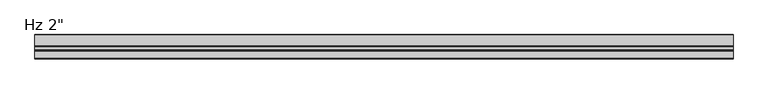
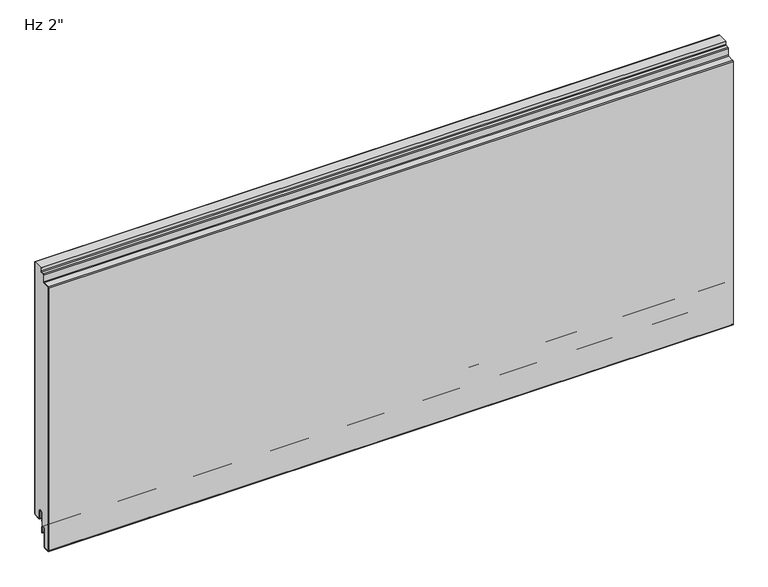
"""IFC4 building model written with IfcOpenShell, lengths in millimetres: plate geometry."""

from ifc_helpers import new_model, si_unit, point, frame, frame_2d, origin, place, context, project, spatial, polyline, circle_curve, trimmed, segment, composite_curve, outline, extrude, source, transform, mapped, element, save


def plate_a425dd43(model_context):
    return source(origin(), model_context, "Body", "SweptSolid", [
        extrude(outline(composite_curve([segment(polyline([(-22.8125, 564.5620957), (-22.8125, 571.2), (-1.0, 571.2), (-1.0, 3.175)]), True, "CONTINUOUS"), segment(trimmed(circle_curve(frame_2d((-2.38125, 3.175)), 1.38125), [point((-1.0, 3.175))], [point((-2.38125, 1.79375))], False, "CARTESIAN"), True, "CONTINUOUS"), segment(polyline([(-2.38125, 1.79375), (-15.08125, 1.79375)]), True, "CONTINUOUS"), segment(trimmed(circle_curve(frame_2d((-15.08125, 3.175)), 1.38125), [point((-15.08125, 1.79375))], [point((-16.4625, 3.175))], False, "CARTESIAN"), True, "CONTINUOUS"), segment(polyline([(-16.4625, 3.175), (-16.4625, 19.05)]), True, "CONTINUOUS"), segment(trimmed(circle_curve(frame_2d((-21.43125, 19.05)), 4.96875), [point((-16.4625, 19.05))], [point((-26.4, 19.05))], True, "CARTESIAN"), True, "CONTINUOUS"), segment(polyline([(-26.4, 19.05), (-26.4, -6.9375), (-30.95625, -6.9375)]), True, "CONTINUOUS"), segment(trimmed(circle_curve(frame_2d((-30.95625, -11.90625)), 4.96875), [point((-30.95625, -6.9375))], [point((-35.925, -11.90625))], True, "CARTESIAN"), True, "CONTINUOUS"), segment(polyline([(-35.925, -11.90625), (-35.925, -50.0895546)]), True, "CONTINUOUS"), segment(trimmed(circle_curve(frame_2d((-37.30625, -50.0895546)), 1.38125), [point((-35.925, -50.0895546))], [point((-37.233961, -51.4689117))], False, "CARTESIAN"), True, "CONTINUOUS"), segment(polyline([(-37.233961, -51.4689117), (-48.346461, -52.0512931)]), True, "CONTINUOUS"), segment(trimmed(circle_curve(frame_2d((-48.41875, -50.6719361)), 1.38125), [point((-48.346461, -52.0512931))], [point((-49.8, -50.6719361))], False, "CARTESIAN"), True, "CONTINUOUS"), segment(polyline([(-49.8, -50.6719361), (-49.8, 541.4447607)]), True, "CONTINUOUS"), segment(trimmed(circle_curve(frame_2d((-48.41875, 541.4447607)), 1.38125), [point((-49.8, 541.4447607))], [point((-48.491039, 542.8241177))], False, "CARTESIAN"), True, "CONTINUOUS"), segment(polyline([(-48.491039, 542.8241177), (-34.7895807, 543.5421807)]), True, "CONTINUOUS"), segment(trimmed(circle_curve(frame_2d((-34.925, 546.1261347)), 2.5875), [point((-34.7895807, 543.5421807))], [point((-32.3375, 546.1261347))], True, "CARTESIAN"), True, "CONTINUOUS"), segment(polyline([(-32.3375, 546.1261347), (-32.3375, 560.2967085)]), True, "CONTINUOUS"), segment(trimmed(circle_curve(frame_2d((-30.95625, 560.2967085)), 1.38125), [point((-32.3375, 560.2967085))], [point((-31.028539, 561.6760655))], False, "CARTESIAN"), True, "CONTINUOUS"), segment(polyline([(-31.028539, 561.6760655), (-25.2645807, 561.9781418)]), True, "CONTINUOUS"), segment(trimmed(circle_curve(frame_2d((-25.4, 564.5620957)), 2.5875), [point((-25.2645807, 561.9781418))], [point((-22.8125, 564.5620957))], True, "CARTESIAN"), True, "CONTINUOUS")], self_intersect=False)), frame((-730.0, 0.0, 0.0), z_axis=(1.0, 0.0, 0.0), x_axis=(0.0, 1.0, 0.0)), (0.0, 0.0, 1.0), 1460.0),
        extrude(outline(composite_curve([segment(polyline([(-25.4, 0.79375), (-26.4, 0.79375), (-26.4, 19.05)]), True, "CONTINUOUS"), segment(trimmed(circle_curve(frame_2d((-21.43125, 19.05)), 4.96875), [point((-26.4, 19.05))], [point((-16.4625, 19.05))], False, "CARTESIAN"), True, "CONTINUOUS"), segment(polyline([(-16.4625, 19.05), (-16.4625, 3.175)]), True, "CONTINUOUS"), segment(trimmed(circle_curve(frame_2d((-15.08125, 3.175)), 1.38125), [point((-16.4625, 3.175))], [point((-15.08125, 1.79375))], True, "CARTESIAN"), True, "CONTINUOUS"), segment(polyline([(-15.08125, 1.79375), (-2.38125, 1.79375)]), True, "CONTINUOUS"), segment(trimmed(circle_curve(frame_2d((-2.38125, 3.175)), 1.38125), [point((-2.38125, 1.79375))], [point((-1.0, 3.175))], True, "CARTESIAN"), True, "CONTINUOUS"), segment(polyline([(-1.0, 3.175), (-1.0, 571.2), (0.0, 571.2), (0.0, 3.175)]), True, "CONTINUOUS"), segment(trimmed(circle_curve(frame_2d((-2.38125, 3.175)), 2.38125), [point((0.0, 3.175))], [point((-2.38125, 0.79375))], False, "CARTESIAN"), True, "CONTINUOUS"), segment(polyline([(-2.38125, 0.79375), (-15.08125, 0.79375)]), True, "CONTINUOUS"), segment(trimmed(circle_curve(frame_2d((-15.08125, 3.175)), 2.38125), [point((-15.08125, 0.79375))], [point((-17.4625, 3.175))], False, "CARTESIAN"), True, "CONTINUOUS"), segment(polyline([(-17.4625, 3.175), (-17.4625, 19.05)]), True, "CONTINUOUS"), segment(trimmed(circle_curve(frame_2d((-21.43125, 19.05)), 3.96875), [point((-17.4625, 19.05))], [point((-25.4, 19.05))], True, "CARTESIAN"), True, "CONTINUOUS"), segment(polyline([(-25.4, 19.05), (-25.4, 0.79375)]), True, "CONTINUOUS")], self_intersect=False)), frame((-730.0, 0.0, 0.0), z_axis=(1.0, 0.0, 0.0), x_axis=(0.0, 1.0, 0.0)), (0.0, 0.0, 1.0), 1460.0),
        extrude(outline(composite_curve([segment(trimmed(circle_curve(frame_2d((-26.19375, -23.2314549)), 0.79375), [point((-25.4, -23.2314549))], [point((-26.9875, -23.2314549))], False, "CARTESIAN"), True, "CONTINUOUS"), segment(polyline([(-26.9875, -23.2314549), (-26.9875, -11.9205174)]), True, "CONTINUOUS"), segment(trimmed(circle_curve(frame_2d((-30.95625, -11.9205174)), 3.96875), [point((-26.9875, -11.9205174))], [point((-34.925, -11.9205174))], True, "CARTESIAN"), True, "CONTINUOUS"), segment(polyline([(-34.925, -11.9205174), (-34.925, -50.1038221)]), True, "CONTINUOUS"), segment(trimmed(circle_curve(frame_2d((-37.30625, -50.1038221)), 2.38125), [point((-34.925, -50.1038221))], [point((-37.181625, -52.4818086))], False, "CARTESIAN"), True, "CONTINUOUS"), segment(polyline([(-37.181625, -52.4818086), (-48.294125, -53.0641901)]), True, "CONTINUOUS"), segment(trimmed(circle_curve(frame_2d((-48.41875, -50.6862035)), 2.38125), [point((-48.294125, -53.0641901))], [point((-50.8, -50.6862035))], False, "CARTESIAN"), True, "CONTINUOUS"), segment(polyline([(-50.8, -50.6862035), (-50.8, 541.4447607)]), True, "CONTINUOUS"), segment(trimmed(circle_curve(frame_2d((-48.41875, 541.4447607)), 2.38125), [point((-50.8, 541.4447607))], [point((-48.543375, 543.8227473))], False, "CARTESIAN"), True, "CONTINUOUS"), segment(polyline([(-48.543375, 543.8227473), (-34.8419167, 544.5408103)]), True, "CONTINUOUS"), segment(trimmed(circle_curve(frame_2d((-34.925, 546.1261347)), 1.5875), [point((-34.8419167, 544.5408103))], [point((-33.3375, 546.1261347))], True, "CARTESIAN"), True, "CONTINUOUS"), segment(polyline([(-33.3375, 546.1261347), (-33.3375, 560.2824411)]), True, "CONTINUOUS"), segment(trimmed(circle_curve(frame_2d((-30.95625, 560.2824411)), 2.38125), [point((-33.3375, 560.2824411))], [point((-31.080875, 562.6604276))], False, "CARTESIAN"), True, "CONTINUOUS"), segment(polyline([(-31.080875, 562.6604276), (-25.3169167, 562.9625039)]), True, "CONTINUOUS"), segment(trimmed(circle_curve(frame_2d((-25.4, 564.5478283)), 1.5875), [point((-25.3169167, 562.9625039))], [point((-23.8125, 564.5478283))], True, "CARTESIAN"), True, "CONTINUOUS"), segment(polyline([(-23.8125, 564.5478283), (-23.8125, 571.2), (-22.8125, 571.2), (-22.8125, 564.5478283)]), True, "CONTINUOUS"), segment(trimmed(circle_curve(frame_2d((-25.4, 564.5478283)), 2.5875), [point((-22.8125, 564.5478283))], [point((-25.2645807, 561.9638744))], False, "CARTESIAN"), True, "CONTINUOUS"), segment(polyline([(-25.2645807, 561.9638744), (-31.028539, 561.6617981)]), True, "CONTINUOUS"), segment(trimmed(circle_curve(frame_2d((-30.95625, 560.2824411)), 1.38125), [point((-31.028539, 561.6617981))], [point((-32.3375, 560.2824411))], True, "CARTESIAN"), True, "CONTINUOUS"), segment(polyline([(-32.3375, 560.2824411), (-32.3375, 546.1261347)]), True, "CONTINUOUS"), segment(trimmed(circle_curve(frame_2d((-34.925, 546.1261347)), 2.5875), [point((-32.3375, 546.1261347))], [point((-34.7895807, 543.5421807))], False, "CARTESIAN"), True, "CONTINUOUS"), segment(polyline([(-34.7895807, 543.5421807), (-48.491039, 542.8241177)]), True, "CONTINUOUS"), segment(trimmed(circle_curve(frame_2d((-48.41875, 541.4447607)), 1.38125), [point((-48.491039, 542.8241177))], [point((-49.8, 541.4447607))], True, "CARTESIAN"), True, "CONTINUOUS"), segment(polyline([(-49.8, 541.4447607), (-49.8, -50.6862035)]), True, "CONTINUOUS"), segment(trimmed(circle_curve(frame_2d((-48.41875, -50.6862035)), 1.38125), [point((-49.8, -50.6862035))], [point((-48.346461, -52.0655606))], True, "CARTESIAN"), True, "CONTINUOUS"), segment(polyline([(-48.346461, -52.0655606), (-37.233961, -51.4831791)]), True, "CONTINUOUS"), segment(trimmed(circle_curve(frame_2d((-37.30625, -50.1038221)), 1.38125), [point((-37.233961, -51.4831791))], [point((-35.925, -50.1038221))], True, "CARTESIAN"), True, "CONTINUOUS"), segment(polyline([(-35.925, -50.1038221), (-35.925, -11.9205174)]), True, "CONTINUOUS"), segment(trimmed(circle_curve(frame_2d((-30.95625, -11.9205174)), 4.96875), [point((-35.925, -11.9205174))], [point((-25.9875, -11.9205174))], False, "CARTESIAN"), True, "CONTINUOUS"), segment(polyline([(-25.9875, -11.9205174), (-26.19375, -13.5080174), (-25.4, -13.5080174), (-25.4, -23.2314549)]), True, "CONTINUOUS")], self_intersect=False)), frame((-730.0, 0.0, 0.0), z_axis=(1.0, 0.0, 0.0), x_axis=(0.0, 1.0, 0.0)), (0.0, 0.0, 1.0), 1460.0),
    ])


if __name__ == "__main__":
    model = new_model("IFC4")
    model_context = context("Model", 3, world=origin())
    ifc_project = project(units=[si_unit("LENGTHUNIT", "METRE", prefix="MILLI")], contexts=[model_context])
    site = spatial("IfcSite", under=ifc_project)
    building = spatial("IfcBuilding", under=site)
    placement = place(None, origin())
    plate_shape = plate_a425dd43(model_context)
    element("IfcPlate", 1, ObjectType="KIP-24-DWHR-R19-CP-Hz-F : Hz 2\"", at=placement, inside=building, context=model_context, shape_type="MappedRepresentation", body=[
        mapped(plate_shape, transform((0.0, 0.0, 0.0), x_axis=(1.0, 0.0, 0.0), y_axis=(0.0, 1.0, 0.0), z_axis=(0.0, 0.0, 1.0))),
    ])
    save(model, "model.ifc")
